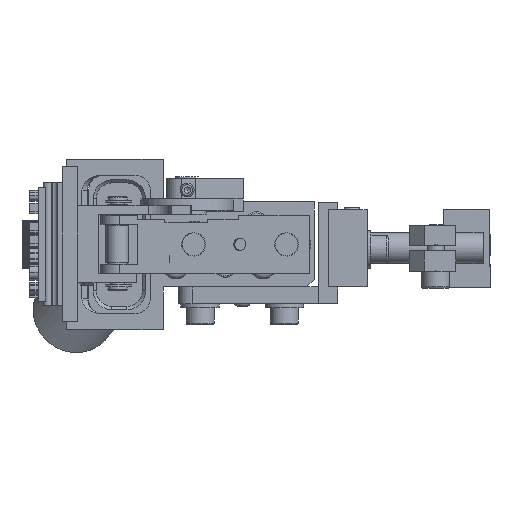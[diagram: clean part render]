
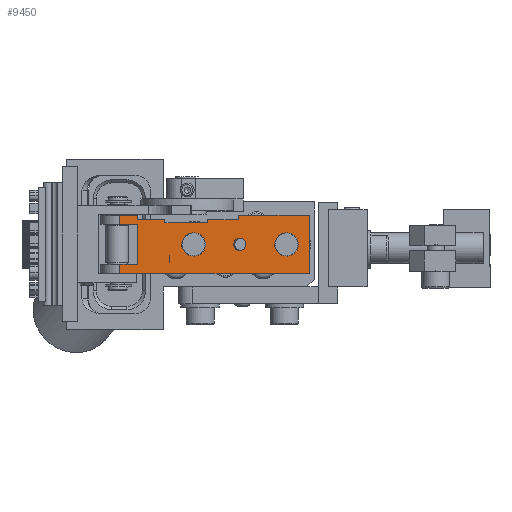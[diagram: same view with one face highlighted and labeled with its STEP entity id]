
A CAD part, front view. The second image highlights one B-rep face of the part: STEP entity #9450.
In plain terms, the highlighted planar face has unit normal (0, -1, 0).
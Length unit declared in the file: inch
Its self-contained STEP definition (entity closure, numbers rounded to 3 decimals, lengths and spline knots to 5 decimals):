
#9085=CARTESIAN_POINT('',(0.34466,-1.20672,-0.25));
#9086=VERTEX_POINT('',#9085);
#9137=CARTESIAN_POINT('',(0.34466,-1.20672,-0.436));
#9138=VERTEX_POINT('',#9137);
#9224=CARTESIAN_POINT('',(0.53851,-1.20672,-0.579));
#9225=DIRECTION('',(0.0,-1.0,0.0));
#9226=DIRECTION('',(0.0,0.0,-1.0));
#9227=AXIS2_PLACEMENT_3D('',#9224,#9225,#9226);
#9228=PLANE('',#9227);
#9229=CARTESIAN_POINT('',(-0.84649,-1.20672,-0.143));
#9230=VERTEX_POINT('',#9229);
#9231=CARTESIAN_POINT('',(-0.84649,-1.20672,-0.106));
#9232=VERTEX_POINT('',#9231);
#9233=CARTESIAN_POINT('',(-0.84649,-1.20672,-0.143));
#9234=DIRECTION('',(0.0,0.0,1.0));
#9235=VECTOR('',#9234,0.037);
#9236=LINE('',#9233,#9235);
#9237=EDGE_CURVE('',#9230,#9232,#9236,.T.);
#9238=ORIENTED_EDGE('',*,*,#9237,.T.);
#9239=CARTESIAN_POINT('',(-0.99251,-1.20672,-0.106));
#9240=VERTEX_POINT('',#9239);
#9241=CARTESIAN_POINT('',(-0.84649,-1.20672,-0.106));
#9242=DIRECTION('',(-1.0,0.0,0.0));
#9243=VECTOR('',#9242,0.14601);
#9244=LINE('',#9241,#9243);
#9245=EDGE_CURVE('',#9232,#9240,#9244,.T.);
#9246=ORIENTED_EDGE('',*,*,#9245,.T.);
#9247=CARTESIAN_POINT('',(-0.99251,-1.20672,-0.18));
#9248=VERTEX_POINT('',#9247);
#9249=CARTESIAN_POINT('',(-0.99251,-1.20672,-0.18));
#9250=DIRECTION('',(0.0,0.0,1.0));
#9251=VECTOR('',#9250,0.074);
#9252=LINE('',#9249,#9251);
#9253=EDGE_CURVE('',#9248,#9240,#9252,.T.);
#9254=ORIENTED_EDGE('',*,*,#9253,.F.);
#9255=CARTESIAN_POINT('',(-0.84749,-1.20672,-0.18));
#9256=VERTEX_POINT('',#9255);
#9257=CARTESIAN_POINT('',(-0.99251,-1.20672,-0.18));
#9258=DIRECTION('',(1.0,0.0,0.0));
#9259=VECTOR('',#9258,0.14501);
#9260=LINE('',#9257,#9259);
#9261=EDGE_CURVE('',#9248,#9256,#9260,.T.);
#9262=ORIENTED_EDGE('',*,*,#9261,.T.);
#9263=CARTESIAN_POINT('',(-0.84749,-1.20672,-0.505));
#9264=VERTEX_POINT('',#9263);
#9265=CARTESIAN_POINT('',(-0.84749,-1.20672,-0.18));
#9266=DIRECTION('',(0.0,0.0,-1.0));
#9267=VECTOR('',#9266,0.325);
#9268=LINE('',#9265,#9267);
#9269=EDGE_CURVE('',#9256,#9264,#9268,.T.);
#9270=ORIENTED_EDGE('',*,*,#9269,.T.);
#9271=CARTESIAN_POINT('',(-0.99251,-1.20672,-0.505));
#9272=VERTEX_POINT('',#9271);
#9273=CARTESIAN_POINT('',(-0.84749,-1.20672,-0.505));
#9274=DIRECTION('',(-1.0,0.0,0.0));
#9275=VECTOR('',#9274,0.14501);
#9276=LINE('',#9273,#9275);
#9277=EDGE_CURVE('',#9264,#9272,#9276,.T.);
#9278=ORIENTED_EDGE('',*,*,#9277,.T.);
#9279=CARTESIAN_POINT('',(-0.99251,-1.20672,-0.579));
#9280=VERTEX_POINT('',#9279);
#9281=CARTESIAN_POINT('',(-0.99251,-1.20672,-0.579));
#9282=DIRECTION('',(0.0,0.0,1.0));
#9283=VECTOR('',#9282,0.074);
#9284=LINE('',#9281,#9283);
#9285=EDGE_CURVE('',#9280,#9272,#9284,.T.);
#9286=ORIENTED_EDGE('',*,*,#9285,.F.);
#9287=CARTESIAN_POINT('',(-0.85649,-1.20672,-0.579));
#9288=VERTEX_POINT('',#9287);
#9289=CARTESIAN_POINT('',(-0.99251,-1.20672,-0.579));
#9290=DIRECTION('',(1.0,0.,0.));
#9291=VECTOR('',#9290,0.13601);
#9292=LINE('',#9289,#9291);
#9293=EDGE_CURVE('',#9280,#9288,#9292,.T.);
#9294=ORIENTED_EDGE('',*,*,#9293,.T.);
#9295=CARTESIAN_POINT('',(0.53851,-1.20672,-0.579));
#9296=VERTEX_POINT('',#9295);
#9297=CARTESIAN_POINT('',(-0.85649,-1.20672,-0.579));
#9298=DIRECTION('',(1.0,0.0,0.0));
#9299=VECTOR('',#9298,1.395);
#9300=LINE('',#9297,#9299);
#9301=EDGE_CURVE('',#9288,#9296,#9300,.T.);
#9302=ORIENTED_EDGE('',*,*,#9301,.T.);
#9303=CARTESIAN_POINT('',(0.53851,-1.20672,-0.106));
#9304=VERTEX_POINT('',#9303);
#9305=CARTESIAN_POINT('',(0.53851,-1.20672,-0.579));
#9306=DIRECTION('',(0.0,0.0,1.0));
#9307=VECTOR('',#9306,0.473);
#9308=LINE('',#9305,#9307);
#9309=EDGE_CURVE('',#9296,#9304,#9308,.T.);
#9310=ORIENTED_EDGE('',*,*,#9309,.T.);
#9311=CARTESIAN_POINT('',(-0.03449,-1.20672,-0.106));
#9312=VERTEX_POINT('',#9311);
#9313=CARTESIAN_POINT('',(0.53851,-1.20672,-0.106));
#9314=DIRECTION('',(-1.0,0.0,0.0));
#9315=VECTOR('',#9314,0.573);
#9316=LINE('',#9313,#9315);
#9317=EDGE_CURVE('',#9304,#9312,#9316,.T.);
#9318=ORIENTED_EDGE('',*,*,#9317,.T.);
#9319=CARTESIAN_POINT('',(-0.03449,-1.20672,-0.14286));
#9320=VERTEX_POINT('',#9319);
#9321=CARTESIAN_POINT('',(-0.03449,-1.20672,-0.106));
#9322=DIRECTION('',(0.0,0.0,-1.0));
#9323=VECTOR('',#9322,0.03686);
#9324=LINE('',#9321,#9323);
#9325=EDGE_CURVE('',#9312,#9320,#9324,.T.);
#9326=ORIENTED_EDGE('',*,*,#9325,.T.);
#9327=CARTESIAN_POINT('',(-0.28475,-1.20672,-0.14286));
#9328=VERTEX_POINT('',#9327);
#9329=CARTESIAN_POINT('',(-0.03449,-1.20672,-0.14286));
#9330=DIRECTION('',(-1.0,0.0,0.0));
#9331=VECTOR('',#9330,0.25026);
#9332=LINE('',#9329,#9331);
#9333=EDGE_CURVE('',#9320,#9328,#9332,.T.);
#9334=ORIENTED_EDGE('',*,*,#9333,.T.);
#9335=CARTESIAN_POINT('',(-0.28475,-1.20672,-0.168));
#9336=VERTEX_POINT('',#9335);
#9337=CARTESIAN_POINT('',(-0.28475,-1.20672,-0.14286));
#9338=DIRECTION('',(0.0,0.0,-1.0));
#9339=VECTOR('',#9338,0.02514);
#9340=LINE('',#9337,#9339);
#9341=EDGE_CURVE('',#9328,#9336,#9340,.T.);
#9342=ORIENTED_EDGE('',*,*,#9341,.T.);
#9343=CARTESIAN_POINT('',(-0.62775,-1.20672,-0.168));
#9344=VERTEX_POINT('',#9343);
#9345=CARTESIAN_POINT('',(-0.28475,-1.20672,-0.168));
#9346=DIRECTION('',(-1.0,0.0,0.0));
#9347=VECTOR('',#9346,0.343);
#9348=LINE('',#9345,#9347);
#9349=EDGE_CURVE('',#9336,#9344,#9348,.T.);
#9350=ORIENTED_EDGE('',*,*,#9349,.T.);
#9351=CARTESIAN_POINT('',(-0.62775,-1.20672,-0.143));
#9352=VERTEX_POINT('',#9351);
#9353=CARTESIAN_POINT('',(-0.62775,-1.20672,-0.168));
#9354=DIRECTION('',(0.0,0.0,1.0));
#9355=VECTOR('',#9354,0.025);
#9356=LINE('',#9353,#9355);
#9357=EDGE_CURVE('',#9344,#9352,#9356,.T.);
#9358=ORIENTED_EDGE('',*,*,#9357,.T.);
#9359=CARTESIAN_POINT('',(-0.62775,-1.20672,-0.143));
#9360=DIRECTION('',(-1.0,0.0,0.0));
#9361=VECTOR('',#9360,0.21874);
#9362=LINE('',#9359,#9361);
#9363=EDGE_CURVE('',#9352,#9230,#9362,.T.);
#9364=ORIENTED_EDGE('',*,*,#9363,.T.);
#9365=EDGE_LOOP('',(#9238,#9246,#9254,#9262,#9270,#9278,#9286,#9294,#9302,#9310,#9318,#9326,#9334,#9342,#9350,#9358,#9364));
#9366=FACE_OUTER_BOUND('',#9365,.T.);
#9367=CARTESIAN_POINT('',(-0.07249,-1.20672,-0.343));
#9368=VERTEX_POINT('',#9367);
#9369=CARTESIAN_POINT('',(-0.02349,-1.20672,-0.343));
#9370=DIRECTION('',(0.0,1.0,0.0));
#9371=DIRECTION('',(-1.0,0.0,0.0));
#9372=AXIS2_PLACEMENT_3D('',#9369,#9370,#9371);
#9373=CIRCLE('',#9372,0.049);
#9374=EDGE_CURVE('',#9368,#9368,#9373,.T.);
#9375=ORIENTED_EDGE('',*,*,#9374,.T.);
#9376=EDGE_LOOP('',(#9375));
#9377=FACE_BOUND('',#9376,.T.);
#9378=CARTESIAN_POINT('',(-0.40534,-1.20672,-0.25));
#9379=VERTEX_POINT('',#9378);
#9380=CARTESIAN_POINT('',(-0.29974,-1.20672,-0.343));
#9381=VERTEX_POINT('',#9380);
#9382=CARTESIAN_POINT('',(-0.39349,-1.20672,-0.343));
#9383=DIRECTION('',(0.0,1.0,0.0));
#9384=DIRECTION('',(-1.0,0.0,0.0));
#9385=AXIS2_PLACEMENT_3D('',#9382,#9383,#9384);
#9386=CIRCLE('',#9385,0.09375);
#9387=EDGE_CURVE('',#9379,#9381,#9386,.T.);
#9388=ORIENTED_EDGE('',*,*,#9387,.T.);
#9389=CARTESIAN_POINT('',(-0.40534,-1.20672,-0.436));
#9390=VERTEX_POINT('',#9389);
#9391=CARTESIAN_POINT('',(-0.39349,-1.20672,-0.343));
#9392=DIRECTION('',(0.0,1.0,0.0));
#9393=DIRECTION('',(-1.0,0.0,0.0));
#9394=AXIS2_PLACEMENT_3D('',#9391,#9392,#9393);
#9395=CIRCLE('',#9394,0.09375);
#9396=EDGE_CURVE('',#9381,#9390,#9395,.T.);
#9397=ORIENTED_EDGE('',*,*,#9396,.T.);
#9398=CARTESIAN_POINT('',(-0.49174,-1.20672,-0.343));
#9399=VERTEX_POINT('',#9398);
#9400=CARTESIAN_POINT('',(-0.39849,-1.20672,-0.343));
#9401=DIRECTION('',(0.0,1.0,0.0));
#9402=DIRECTION('',(-1.0,0.0,0.0));
#9403=AXIS2_PLACEMENT_3D('',#9400,#9401,#9402);
#9404=CIRCLE('',#9403,0.09325);
#9405=EDGE_CURVE('',#9390,#9399,#9404,.T.);
#9406=ORIENTED_EDGE('',*,*,#9405,.T.);
#9407=CARTESIAN_POINT('',(-0.39849,-1.20672,-0.343));
#9408=DIRECTION('',(0.0,1.0,0.0));
#9409=DIRECTION('',(-1.0,0.0,0.0));
#9410=AXIS2_PLACEMENT_3D('',#9407,#9408,#9409);
#9411=CIRCLE('',#9410,0.09325);
#9412=EDGE_CURVE('',#9399,#9379,#9411,.T.);
#9413=ORIENTED_EDGE('',*,*,#9412,.T.);
#9414=EDGE_LOOP('',(#9388,#9397,#9406,#9413));
#9415=FACE_BOUND('',#9414,.T.);
#9416=CARTESIAN_POINT('',(0.45026,-1.20672,-0.343));
#9417=VERTEX_POINT('',#9416);
#9418=CARTESIAN_POINT('',(0.35651,-1.20672,-0.343));
#9419=DIRECTION('',(0.0,1.0,0.0));
#9420=DIRECTION('',(-1.0,0.0,0.0));
#9421=AXIS2_PLACEMENT_3D('',#9418,#9419,#9420);
#9422=CIRCLE('',#9421,0.09375);
#9423=EDGE_CURVE('',#9086,#9417,#9422,.T.);
#9424=ORIENTED_EDGE('',*,*,#9423,.T.);
#9425=CARTESIAN_POINT('',(0.35651,-1.20672,-0.343));
#9426=DIRECTION('',(0.0,1.0,0.0));
#9427=DIRECTION('',(-1.0,0.0,0.0));
#9428=AXIS2_PLACEMENT_3D('',#9425,#9426,#9427);
#9429=CIRCLE('',#9428,0.09375);
#9430=EDGE_CURVE('',#9417,#9138,#9429,.T.);
#9431=ORIENTED_EDGE('',*,*,#9430,.T.);
#9432=CARTESIAN_POINT('',(0.25826,-1.20672,-0.343));
#9433=VERTEX_POINT('',#9432);
#9434=CARTESIAN_POINT('',(0.35151,-1.20672,-0.343));
#9435=DIRECTION('',(0.0,1.0,0.0));
#9436=DIRECTION('',(-1.0,0.0,0.0));
#9437=AXIS2_PLACEMENT_3D('',#9434,#9435,#9436);
#9438=CIRCLE('',#9437,0.09325);
#9439=EDGE_CURVE('',#9138,#9433,#9438,.T.);
#9440=ORIENTED_EDGE('',*,*,#9439,.T.);
#9441=CARTESIAN_POINT('',(0.35151,-1.20672,-0.343));
#9442=DIRECTION('',(0.0,1.0,0.0));
#9443=DIRECTION('',(-1.0,0.0,0.0));
#9444=AXIS2_PLACEMENT_3D('',#9441,#9442,#9443);
#9445=CIRCLE('',#9444,0.09325);
#9446=EDGE_CURVE('',#9433,#9086,#9445,.T.);
#9447=ORIENTED_EDGE('',*,*,#9446,.T.);
#9448=EDGE_LOOP('',(#9424,#9431,#9440,#9447));
#9449=FACE_BOUND('',#9448,.T.);
#9450=ADVANCED_FACE('',(#9366,#9377,#9415,#9449),#9228,.T.);
